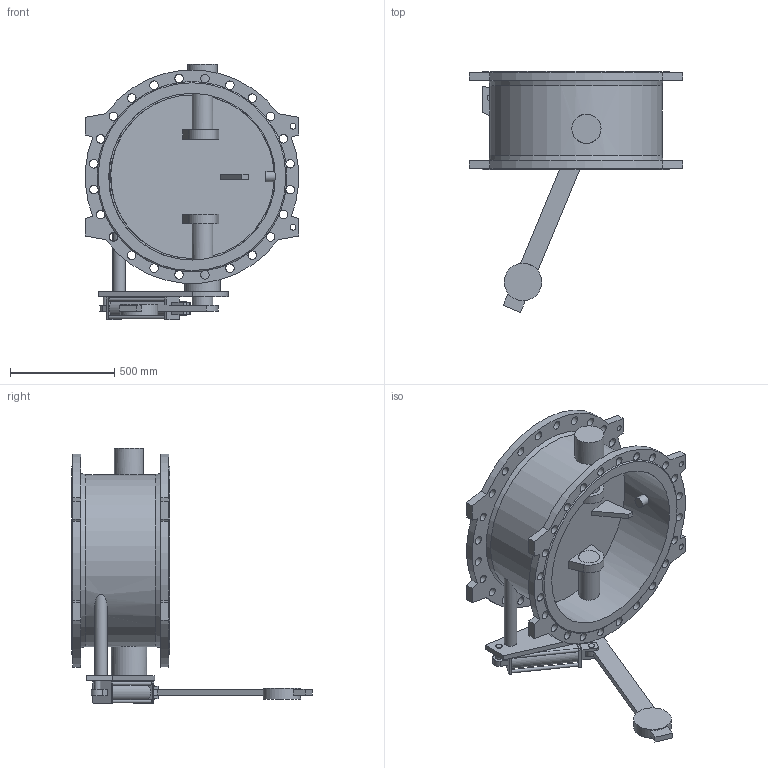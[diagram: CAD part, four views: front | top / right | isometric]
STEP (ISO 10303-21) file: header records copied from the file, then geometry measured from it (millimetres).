
FILE_DESCRIPTION(('STEP AP203'), '1');
FILE_NAME('Êëàïàí 015F.PV DN800 PN16 ñ ïðîòèâîâåñîì ñ äåìïôåðîì', '', ('UNSPECIFIED'), ('UNSPECIFIED'), 'ASCON STEP Converter 1.6', 'ASCON Math Kernel', '');
FILE_SCHEMA(('CONFIG_CONTROL_DESIGN'));
Length unit declared in the file: millimetre
Bounding box: 1025 x 1155 x 1227 mm (x, y, z)
Volume: 64300647.8 mm3; surface area: 6158185.6 mm2
Topology: 1 solids, 1 shells, 215 faces, 696 edges, 462 vertices
Faces by surface type: cylinder 106, plane 100, cone 4, extrusion 2, torus 2, bspline 1
Full cylindrical faces by diameter (mm): 16 x5, 25 x2, 28 x4, 30 x7, 40 x1, 41 x48, 50 x1, 60 x1, 90 x1, 100 x3, 102 x2, 140 x1, 170 x1, 180 x1, 800 x1, 826 x1
Entity records: 13846 total; most frequent: CARTESIAN_POINT 5946, DIRECTION 1266, ORIENTED_EDGE 1202, EDGE_CURVE 601, AXIS2_PLACEMENT_3D 525, VERTEX_POINT 461, EDGE_LOOP 414, CIRCLE 312
